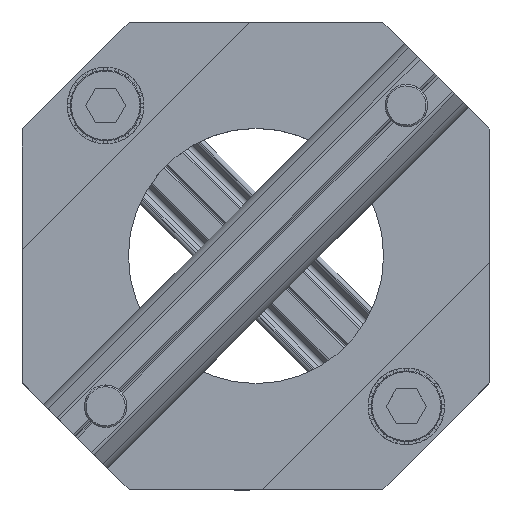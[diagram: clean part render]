
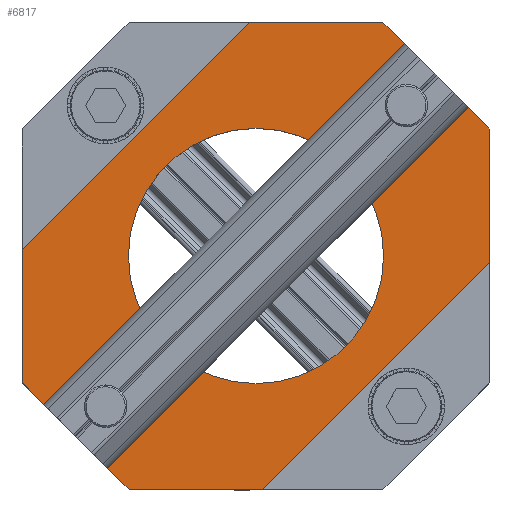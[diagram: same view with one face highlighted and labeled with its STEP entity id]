
A CAD part, top view. The second image highlights one B-rep face of the part: STEP entity #6817.
In plain terms, the highlighted planar face has unit normal (0, 0, 1).
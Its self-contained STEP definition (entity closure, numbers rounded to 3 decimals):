
#6 = CARTESIAN_POINT ( 'NONE',  ( -93.55, -13.668, 39.313 ) ) ;
#50 = CARTESIAN_POINT ( 'NONE',  ( 0., 0., 39.313 ) ) ;
#73 = CARTESIAN_POINT ( 'NONE',  ( -48.372, -23.49, 39.313 ) ) ;
#150 = VECTOR ( 'NONE', #2777, 1000. ) ;
#188 = VERTEX_POINT ( 'NONE', #988 ) ;
#229 = DIRECTION ( 'NONE',  ( 0., 1., 0. ) ) ;
#279 = ORIENTED_EDGE ( 'NONE', *, *, #4203, .F. ) ;
#315 = EDGE_CURVE ( 'NONE', #5068, #4126, #7116, .T. ) ;
#389 = VECTOR ( 'NONE', #5672, 1000. ) ;
#417 = VERTEX_POINT ( 'NONE', #1081 ) ;
#464 = VERTEX_POINT ( 'NONE', #4467 ) ;
#505 = VECTOR ( 'NONE', #229, 1000. ) ;
#524 = CARTESIAN_POINT ( 'NONE',  ( -75.872, 4.01, 39.313 ) ) ;
#573 = CARTESIAN_POINT ( 'NONE',  ( -60.872, 4.01, 39.313 ) ) ;
#608 = AXIS2_PLACEMENT_3D ( 'NONE', #50, #1517, #6526 ) ;
#930 = ORIENTED_EDGE ( 'NONE', *, *, #2323, .T. ) ;
#934 = VECTOR ( 'NONE', #7053, 1000. ) ;
#988 = CARTESIAN_POINT ( 'NONE',  ( -90.872, 4.01, 39.313 ) ) ;
#1076 = CIRCLE ( 'NONE', #3369, 2.55 ) ;
#1081 = CARTESIAN_POINT ( 'NONE',  ( -90.799, -23.49, 39.313 ) ) ;
#1128 = CARTESIAN_POINT ( 'NONE',  ( -96.1, -13.668, 39.313 ) ) ;
#1162 = DIRECTION ( 'NONE',  ( 0., 0., -1. ) ) ;
#1193 = CARTESIAN_POINT ( 'NONE',  ( -103.372, -10.917, 39.313 ) ) ;
#1267 = EDGE_CURVE ( 'NONE', #8120, #417, #3446, .T. ) ;
#1476 = FACE_BOUND ( 'NONE', #5098, .T. ) ;
#1509 = LINE ( 'NONE', #73, #6765 ) ;
#1517 = DIRECTION ( 'NONE',  ( 0., 0., -1. ) ) ;
#1545 = VECTOR ( 'NONE', #1924, 1000. ) ;
#1629 = EDGE_CURVE ( 'NONE', #8120, #464, #8329, .T. ) ;
#1738 = CARTESIAN_POINT ( 'NONE',  ( -48.372, 31.51, 39.313 ) ) ;
#1754 = ORIENTED_EDGE ( 'NONE', *, *, #8381, .T. ) ;
#1807 = EDGE_CURVE ( 'NONE', #8846, #6014, #1076, .T. ) ;
#1853 = ORIENTED_EDGE ( 'NONE', *, *, #4388, .T. ) ;
#1893 = CARTESIAN_POINT ( 'NONE',  ( -91., -13.668, 39.313 ) ) ;
#1896 = EDGE_CURVE ( 'NONE', #5068, #4589, #7992, .T. ) ;
#1924 = DIRECTION ( 'NONE',  ( 0.707, -0.707, 0. ) ) ;
#1979 = EDGE_CURVE ( 'NONE', #6014, #8846, #5903, .T. ) ;
#2059 = DIRECTION ( 'NONE',  ( -1., 0., 0. ) ) ;
#2060 = CARTESIAN_POINT ( 'NONE',  ( -75.088, -23.49, 39.313 ) ) ;
#2078 = DIRECTION ( 'NONE',  ( 0., 0., -1. ) ) ;
#2117 = CARTESIAN_POINT ( 'NONE',  ( -58.195, 21.687, 39.313 ) ) ;
#2120 = DIRECTION ( 'NONE',  ( -0.707, -0.707, 0. ) ) ;
#2221 = CARTESIAN_POINT ( 'NONE',  ( -48.372, 18.936, 39.313 ) ) ;
#2264 = LINE ( 'NONE', #2060, #4187 ) ;
#2323 = EDGE_CURVE ( 'NONE', #188, #5695, #8834, .T. ) ;
#2325 = ORIENTED_EDGE ( 'NONE', *, *, #1896, .T. ) ;
#2428 = CARTESIAN_POINT ( 'NONE',  ( -93.55, -13.668, 39.313 ) ) ;
#2507 = ORIENTED_EDGE ( 'NONE', *, *, #3320, .F. ) ;
#2690 = FACE_BOUND ( 'NONE', #8211, .T. ) ;
#2777 = DIRECTION ( 'NONE',  ( 0., -1., 0. ) ) ;
#2916 = FACE_OUTER_BOUND ( 'NONE', #3688, .T. ) ;
#3012 = CARTESIAN_POINT ( 'NONE',  ( -103.372, -23.49, 39.313 ) ) ;
#3114 = EDGE_CURVE ( 'NONE', #3776, #4589, #8301, .T. ) ;
#3260 = CARTESIAN_POINT ( 'NONE',  ( -76.656, 31.51, 39.313 ) ) ;
#3320 = EDGE_CURVE ( 'NONE', #6555, #417, #1509, .T. ) ;
#3369 = AXIS2_PLACEMENT_3D ( 'NONE', #2428, #6487, #6455 ) ;
#3441 = EDGE_CURVE ( 'NONE', #4126, #6555, #2264, .T. ) ;
#3446 = LINE ( 'NONE', #5495, #1545 ) ;
#3688 = EDGE_LOOP ( 'NONE', ( #7350, #7160, #2507, #3793, #3784, #2325, #4583, #279 ) ) ;
#3776 = VERTEX_POINT ( 'NONE', #3260 ) ;
#3784 = ORIENTED_EDGE ( 'NONE', *, *, #315, .F. ) ;
#3793 = ORIENTED_EDGE ( 'NONE', *, *, #3441, .F. ) ;
#4077 = CARTESIAN_POINT ( 'NONE',  ( -55.645, 21.687, 39.313 ) ) ;
#4126 = VERTEX_POINT ( 'NONE', #8926 ) ;
#4141 = DIRECTION ( 'NONE',  ( 0., 0., -1. ) ) ;
#4187 = VECTOR ( 'NONE', #2120, 1000. ) ;
#4203 = EDGE_CURVE ( 'NONE', #464, #3776, #9018, .T. ) ;
#4388 = EDGE_CURVE ( 'NONE', #6578, #7208, #7512, .T. ) ;
#4467 = CARTESIAN_POINT ( 'NONE',  ( -103.372, 4.794, 39.313 ) ) ;
#4583 = ORIENTED_EDGE ( 'NONE', *, *, #3114, .F. ) ;
#4589 = VERTEX_POINT ( 'NONE', #7946 ) ;
#4627 = DIRECTION ( 'NONE',  ( 0., 0., 1. ) ) ;
#4762 = ORIENTED_EDGE ( 'NONE', *, *, #1807, .F. ) ;
#4769 = CARTESIAN_POINT ( 'NONE',  ( -75.088, -23.49, 39.313 ) ) ;
#4957 = DIRECTION ( 'NONE',  ( 0., 0., -1. ) ) ;
#4966 = CARTESIAN_POINT ( 'NONE',  ( -60.745, 21.687, 39.313 ) ) ;
#5068 = VERTEX_POINT ( 'NONE', #2221 ) ;
#5098 = EDGE_LOOP ( 'NONE', ( #930, #6910 ) ) ;
#5453 = CARTESIAN_POINT ( 'NONE',  ( -75.872, 4.01, 39.313 ) ) ;
#5495 = CARTESIAN_POINT ( 'NONE',  ( -90.799, -23.49, 39.313 ) ) ;
#5541 = CIRCLE ( 'NONE', #6715, 2.55 ) ;
#5672 = DIRECTION ( 'NONE',  ( -0.707, 0.707, 0. ) ) ;
#5695 = VERTEX_POINT ( 'NONE', #573 ) ;
#5805 = PLANE ( 'NONE',  #608 ) ;
#5903 = CIRCLE ( 'NONE', #8583, 2.55 ) ;
#6014 = VERTEX_POINT ( 'NONE', #1893 ) ;
#6182 = DIRECTION ( 'NONE',  ( -1., 0., 0. ) ) ;
#6335 = CARTESIAN_POINT ( 'NONE',  ( -60.946, 31.51, 39.313 ) ) ;
#6391 = AXIS2_PLACEMENT_3D ( 'NONE', #524, #4957, #7144 ) ;
#6455 = DIRECTION ( 'NONE',  ( 1., 0., 0. ) ) ;
#6487 = DIRECTION ( 'NONE',  ( 0., 0., 1. ) ) ;
#6526 = DIRECTION ( 'NONE',  ( -1., 0., 0. ) ) ;
#6555 = VERTEX_POINT ( 'NONE', #4769 ) ;
#6578 = VERTEX_POINT ( 'NONE', #4077 ) ;
#6715 = AXIS2_PLACEMENT_3D ( 'NONE', #8396, #4141, #9062 ) ;
#6765 = VECTOR ( 'NONE', #8766, 1000. ) ;
#6817 = ADVANCED_FACE ( 'NONE', ( #2690, #1476, #8367, #2916 ), #5805, .F. ) ;
#6910 = ORIENTED_EDGE ( 'NONE', *, *, #8855, .T. ) ;
#6952 = DIRECTION ( 'NONE',  ( 0.707, 0.707, 0. ) ) ;
#6977 = ORIENTED_EDGE ( 'NONE', *, *, #1979, .F. ) ;
#6995 = CIRCLE ( 'NONE', #9140, 15. ) ;
#7053 = DIRECTION ( 'NONE',  ( 1., 0., 0. ) ) ;
#7116 = LINE ( 'NONE', #1738, #150 ) ;
#7144 = DIRECTION ( 'NONE',  ( -1., 0., 0. ) ) ;
#7145 = CARTESIAN_POINT ( 'NONE',  ( -76.656, 31.51, 39.313 ) ) ;
#7160 = ORIENTED_EDGE ( 'NONE', *, *, #1267, .T. ) ;
#7205 = VECTOR ( 'NONE', #6952, 1000. ) ;
#7208 = VERTEX_POINT ( 'NONE', #4966 ) ;
#7281 = DIRECTION ( 'NONE',  ( 1., 0., 0. ) ) ;
#7301 = CARTESIAN_POINT ( 'NONE',  ( -103.372, 31.51, 39.313 ) ) ;
#7350 = ORIENTED_EDGE ( 'NONE', *, *, #1629, .F. ) ;
#7512 = CIRCLE ( 'NONE', #8004, 2.55 ) ;
#7946 = CARTESIAN_POINT ( 'NONE',  ( -60.946, 31.51, 39.313 ) ) ;
#7992 = LINE ( 'NONE', #6335, #389 ) ;
#8004 = AXIS2_PLACEMENT_3D ( 'NONE', #2117, #2078, #2059 ) ;
#8120 = VERTEX_POINT ( 'NONE', #1193 ) ;
#8211 = EDGE_LOOP ( 'NONE', ( #1754, #1853 ) ) ;
#8301 = LINE ( 'NONE', #7301, #934 ) ;
#8329 = LINE ( 'NONE', #3012, #505 ) ;
#8367 = FACE_BOUND ( 'NONE', #8385, .T. ) ;
#8381 = EDGE_CURVE ( 'NONE', #7208, #6578, #5541, .T. ) ;
#8385 = EDGE_LOOP ( 'NONE', ( #6977, #4762 ) ) ;
#8396 = CARTESIAN_POINT ( 'NONE',  ( -58.195, 21.687, 39.313 ) ) ;
#8583 = AXIS2_PLACEMENT_3D ( 'NONE', #6, #4627, #7281 ) ;
#8766 = DIRECTION ( 'NONE',  ( -1., 0., 0. ) ) ;
#8834 = CIRCLE ( 'NONE', #6391, 15. ) ;
#8846 = VERTEX_POINT ( 'NONE', #1128 ) ;
#8855 = EDGE_CURVE ( 'NONE', #5695, #188, #6995, .T. ) ;
#8926 = CARTESIAN_POINT ( 'NONE',  ( -48.372, 3.225, 39.313 ) ) ;
#9018 = LINE ( 'NONE', #7145, #7205 ) ;
#9062 = DIRECTION ( 'NONE',  ( -1., 0., 0. ) ) ;
#9140 = AXIS2_PLACEMENT_3D ( 'NONE', #5453, #1162, #6182 ) ;
